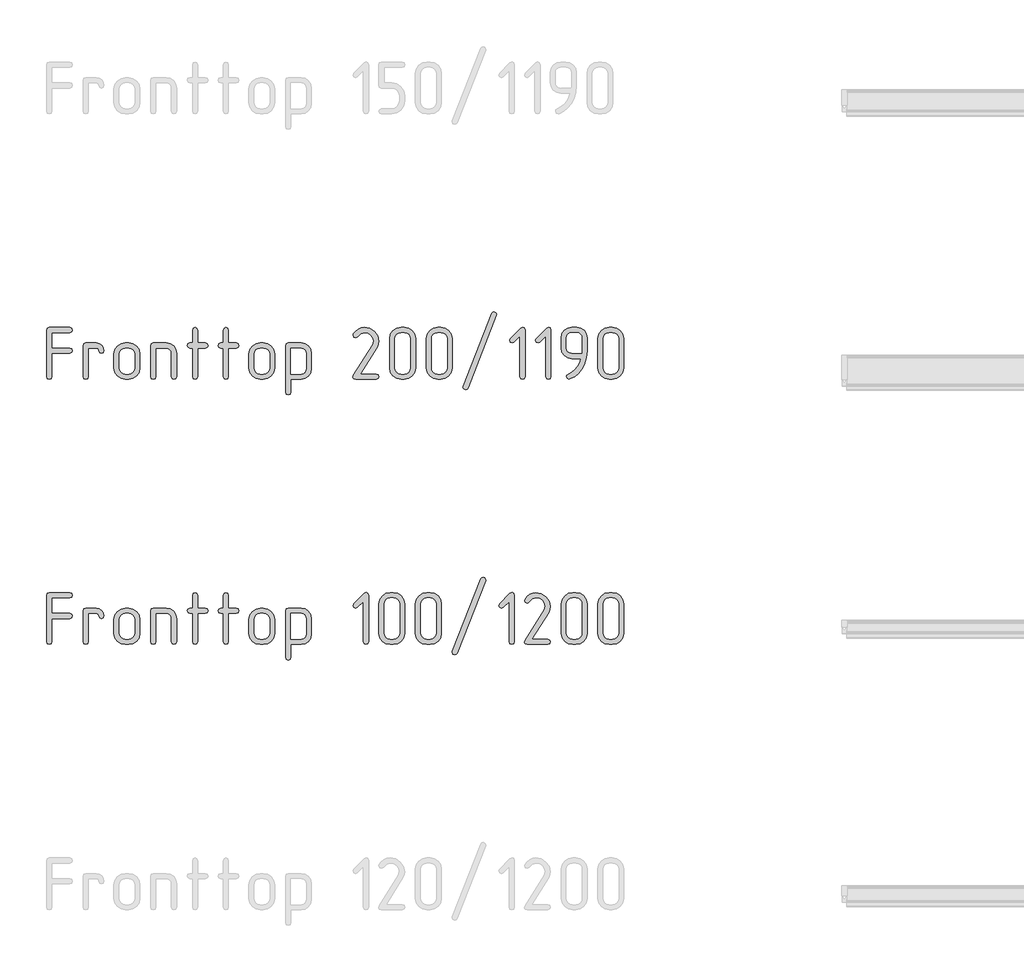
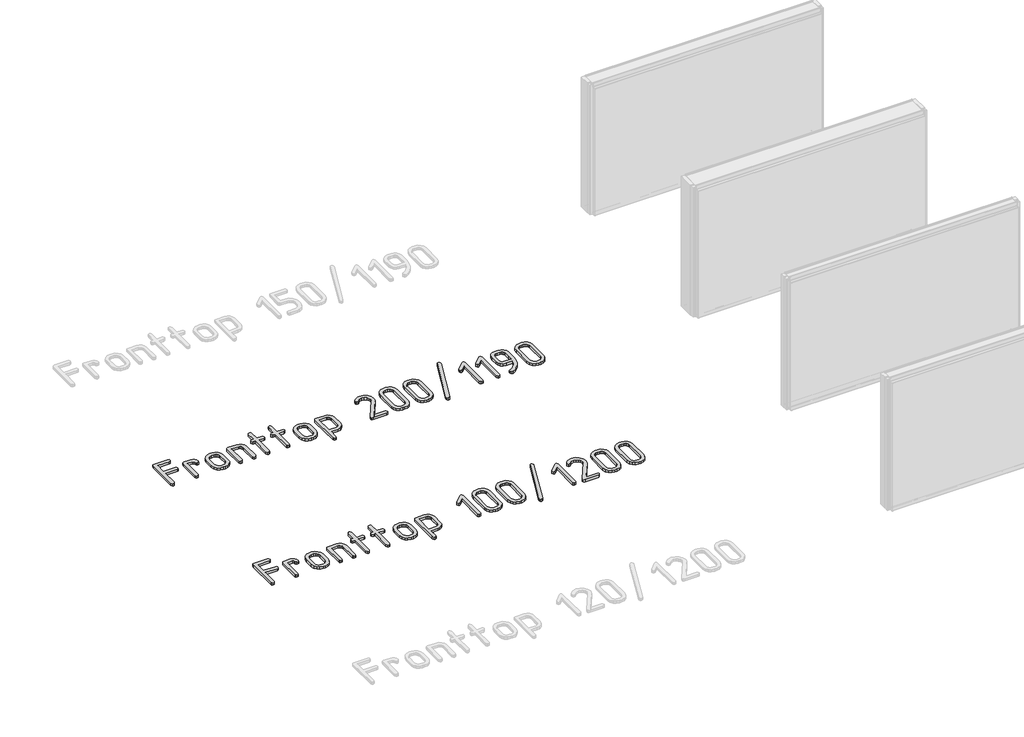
# One storey, part 14 of 37: 2 proxies.
"""IFC4 building model written with IfcOpenShell, lengths in millimetres."""

from ifc_helpers import new_model, si_unit, origin, origin_with_axes, place, context, project, spatial, polyline, outline, extrude, element, save

model = new_model("IFC4")

# Units and contexts
model_context = context("Model", 3, world=origin())
ifc_project = project(units=[si_unit("LENGTHUNIT", "METRE", prefix="MILLI")], contexts=[model_context])

# Site, building, storey
site = spatial("IfcSite", under=ifc_project)
building = spatial("IfcBuilding", under=site)
storey = spatial("IfcBuildingStorey", under=building, Name="Этаж 01", Elevation=0.0)

# Proxies
placement = place(None, origin())
element("IfcBuildingElementProxy", 1, Name="300 мм ГОСТ 2.304", ObjectType="300 мм ГОСТ 2.304", at=placement, inside=storey, context=model_context, shape_type="SweptSolid", body=[
    extrude(outline(polyline([(56161.9989869, -29551.9738322), (56264.4173344, -29551.9738322), (56275.3434297, -29556.0573223), (56278.9854614, -29566.5419592), (56275.1227005, -29577.0633842), (56264.4173344, -29581.5515446), (56161.9989869, -29581.5515446), (56161.9989869, -29713.5476044), (56157.9154968, -29724.4736997), (56147.4308599, -29728.1157314), (56136.9094349, -29724.2529705), (56132.4212745, -29713.5476044), (56132.4212745, -29449.9969431), (56136.1736709, -29438.739754), (56147.4308599, -29434.9873577), (56264.4173344, -29434.9873577), (56275.3434297, -29439.291577), (56278.9854614, -29449.9969431), (56275.1227005, -29460.0769098), (56264.4173344, -29464.5650701), (56161.9989869, -29464.5650701), (56161.9989869, -29551.9738322)])), origin_with_axes(), (0.0, 0.0, 1.0), 20.0),
    extrude(outline(polyline([(56457.0403471, -29566.9834176), (56452.9568569, -29577.9095128), (56442.4722201, -29581.5515446), (56431.950795, -29577.6887836), (56427.4626347, -29566.9834176), (56423.3791445, -29556.7195099), (56412.8945077, -29552.4152905), (56369.1901266, -29552.4152905), (56369.1901266, -29713.5476044), (56365.1066365, -29724.4736997), (56354.6219996, -29728.1157314), (56344.1005746, -29724.2529705), (56339.6124142, -29713.5476044), (56339.6124142, -29537.8471635), (56343.3648106, -29526.9210683), (56354.6219996, -29523.2790365), (56412.8945077, -29523.2790365), (56430.0378086, -29526.7003391), (56444.2012654, -29536.1181182), (56453.6190445, -29550.0608458), (56457.0403471, -29566.9834176)])), origin_with_axes(), (0.0, 0.0, 1.0), 20.0),
    extrude(outline(polyline([(56660.405514, -29663.8099587), (56655.6966245, -29688.7891462), (56641.5699559, -29709.7216317), (56620.9685641, -29723.5172065), (56596.0997413, -29728.1157314), (56578.5149819, -29728.1157314), (56553.5909767, -29723.5172065), (56532.6768853, -29709.7216317), (56518.5502167, -29688.7891462), (56513.8413271, -29663.8099587), (56513.8413271, -29587.5848093), (56518.5502167, -29562.9367156), (56532.6768853, -29542.1145947), (56553.9956469, -29527.9879261), (56578.5149819, -29523.2790365), (56596.0997413, -29523.2790365), (56620.7386379, -29527.9971231), (56641.5331677, -29542.1513829), (56655.6874274, -29562.9459127), (56660.405514, -29587.5848093), (56660.405514, -29663.8099587)]), holes=[polyline([(56631.26926, -29663.8099587), (56631.26926, -29587.5848093), (56628.694086, -29574.0835401), (56620.9685641, -29562.7159864), (56609.6010105, -29554.9904645), (56596.0997413, -29552.4152905), (56578.5149819, -29552.4152905), (56565.0229097, -29554.9904645), (56553.6829472, -29562.7159864), (56545.9850165, -29574.0835401), (56543.4190395, -29587.5848093), (56543.4190395, -29663.8099587), (56545.9850165, -29677.3112279), (56553.6829472, -29688.6787816), (56565.0229097, -29696.4043035), (56578.5149819, -29698.9794774), (56596.0997413, -29698.9794774), (56609.6010105, -29696.4043035), (56620.9685641, -29688.6787816), (56628.694086, -29677.3112279), (56631.26926, -29663.8099587)])]), origin_with_axes(), (0.0, 0.0, 1.0), 20.0),
    extrude(outline(polyline([(56867.5966537, -29713.5476044), (56863.5131635, -29724.4736997), (56853.0285267, -29728.1157314), (56842.7278308, -29724.2529705), (56838.4603997, -29713.5476044), (56838.4603997, -29581.5515446), (56836.3174871, -29570.4139172), (56829.8887492, -29560.986941), (56820.3514085, -29554.5582032), (56808.8826873, -29552.4152905), (56750.6101792, -29552.4152905), (56750.6101792, -29713.5476044), (56746.5266891, -29724.4736997), (56736.0420522, -29728.1157314), (56725.5206272, -29724.2529705), (56721.0324668, -29713.5476044), (56721.0324668, -29537.8471635), (56724.7848632, -29526.9210683), (56736.0420522, -29523.2790365), (56808.8826873, -29523.2790365), (56831.7097651, -29527.4544972), (56850.4533527, -29539.9808791), (56863.3108285, -29558.945196), (56867.5966537, -29581.5515446), (56867.5966537, -29713.5476044)])), origin_with_axes(), (0.0, 0.0, 1.0), 20.0),
    extrude(outline(polyline([(56986.9375729, -29523.2790365), (57031.0834124, -29523.2790365), (57042.0095076, -29527.3625267), (57045.6515394, -29537.8471635), (57041.7887784, -29547.9271302), (57031.0834124, -29552.4152905), (56986.9375729, -29552.4152905), (56986.9375729, -29713.5476044), (56982.8540828, -29724.4736997), (56972.3694459, -29728.1157314), (56962.0687501, -29724.2529705), (56957.8013189, -29713.5476044), (56957.8013189, -29552.4152905), (56943.2331919, -29552.4152905), (56932.3070966, -29548.1478594), (56928.2236065, -29537.8471635), (56932.0863675, -29527.5832559), (56943.2331919, -29523.2790365), (56957.8013189, -29523.2790365), (56957.8013189, -29449.9969431), (56962.0687501, -29439.0708478), (56972.3694459, -29434.9873577), (56982.6333536, -29438.8501186), (56986.9375729, -29449.9969431), (56986.9375729, -29523.2790365)])), origin_with_axes(), (0.0, 0.0, 1.0), 20.0),
    extrude(outline(polyline([(57161.1664858, -29523.2790365), (57205.3123253, -29523.2790365), (57216.2384205, -29527.3625267), (57219.8804523, -29537.8471635), (57216.0176913, -29547.9271302), (57205.3123253, -29552.4152905), (57161.1664858, -29552.4152905), (57161.1664858, -29713.5476044), (57157.0829957, -29724.4736997), (57146.5983588, -29728.1157314), (57136.297663, -29724.2529705), (57132.0302318, -29713.5476044), (57132.0302318, -29552.4152905), (57117.4621048, -29552.4152905), (57106.5360096, -29548.1478594), (57102.4525194, -29537.8471635), (57106.3152804, -29527.5832559), (57117.4621048, -29523.2790365), (57132.0302318, -29523.2790365), (57132.0302318, -29449.9969431), (57136.297663, -29439.0708478), (57146.5983588, -29434.9873577), (57156.8622665, -29438.8501186), (57161.1664858, -29449.9969431), (57161.1664858, -29523.2790365)])), origin_with_axes(), (0.0, 0.0, 1.0), 20.0),
    extrude(outline(polyline([(57423.2456192, -29663.8099587), (57418.5367297, -29688.7891462), (57404.4100611, -29709.7216317), (57383.8086693, -29723.5172065), (57358.9398465, -29728.1157314), (57341.3550871, -29728.1157314), (57316.4310819, -29723.5172065), (57295.5169905, -29709.7216317), (57281.3903219, -29688.7891462), (57276.6814323, -29663.8099587), (57276.6814323, -29587.5848093), (57281.3903219, -29562.9367156), (57295.5169905, -29542.1145947), (57316.8357521, -29527.9879261), (57341.3550871, -29523.2790365), (57358.9398465, -29523.2790365), (57383.5787431, -29527.9971231), (57404.3732729, -29542.1513829), (57418.5275326, -29562.9459127), (57423.2456192, -29587.5848093), (57423.2456192, -29663.8099587)]), holes=[polyline([(57394.1093652, -29663.8099587), (57394.1093652, -29587.5848093), (57391.5341912, -29574.0835401), (57383.8086693, -29562.7159864), (57372.4411157, -29554.9904645), (57358.9398465, -29552.4152905), (57341.3550871, -29552.4152905), (57327.8630149, -29554.9904645), (57316.5230524, -29562.7159864), (57308.8251217, -29574.0835401), (57306.2591447, -29587.5848093), (57306.2591447, -29663.8099587), (57308.8251217, -29677.3112279), (57316.5230524, -29688.6787816), (57327.8630149, -29696.4043035), (57341.3550871, -29698.9794774), (57358.9398465, -29698.9794774), (57372.4411157, -29696.4043035), (57383.8086693, -29688.6787816), (57391.5341912, -29677.3112279), (57394.1093652, -29663.8099587)])]), origin_with_axes(), (0.0, 0.0, 1.0), 20.0),
    extrude(outline(polyline([(57513.4502844, -29728.1157314), (57513.4502844, -29801.3978249), (57509.3667943, -29812.3239201), (57498.8821574, -29815.9659519), (57488.3607324, -29812.1031909), (57483.872572, -29801.3978249), (57483.872572, -29537.8471635), (57487.6249684, -29526.9210683), (57498.8821574, -29523.2790365), (57571.7227925, -29523.2790365), (57594.5498703, -29527.4544972), (57613.2934579, -29539.9808791), (57626.1509337, -29558.945196), (57630.4367589, -29581.5515446), (57630.4367589, -29669.401765), (57626.1509337, -29692.3392074), (57613.2934579, -29711.4138889), (57594.5498703, -29723.9402708), (57571.7227925, -29728.1157314), (57513.4502844, -29728.1157314)]), holes=[polyline([(57513.4502844, -29698.9794774), (57571.7227925, -29698.9794774), (57583.1915137, -29696.8365648), (57592.7288544, -29690.4078269), (57599.1575923, -29680.8704862), (57601.3005049, -29669.401765), (57601.3005049, -29581.5515446), (57599.1575923, -29570.4139172), (57592.7288544, -29560.986941), (57583.1915137, -29554.5582032), (57571.7227925, -29552.4152905), (57513.4502844, -29552.4152905), (57513.4502844, -29698.9794774)])]), origin_with_axes(), (0.0, 0.0, 1.0), 20.0),
    extrude(outline(polyline([(58001.1146572, -29548.1478594), (57906.4218317, -29698.9794774), (57997.2886845, -29698.9794774), (58008.2147797, -29703.0629676), (58011.8568115, -29713.5476044), (58007.9940505, -29723.6275711), (57997.2886845, -29728.1157314), (57880.30221, -29728.1157314), (57868.3828334, -29725.2278578), (57864.4097078, -29716.5642368), (57867.8677986, -29705.3806241), (57975.8779524, -29533.138274), (57981.3961823, -29511.2860835), (57977.7541505, -29493.1862893), (57966.8280553, -29478.3238567), (57950.3285478, -29468.0047668), (57930.8491962, -29464.5650701), (57908.9970056, -29470.5615466), (57892.2951631, -29486.858719), (57887.3839384, -29491.9906728), (57880.30221, -29493.7013241), (57870.0015142, -29489.6546222), (57865.2926246, -29479.5746555), (57867.8677986, -29471.4076752), (57879.6584165, -29456.6923954), (57894.4288786, -29445.0673244), (57911.1307212, -29437.5073494), (57928.7154806, -29434.9873577), (57960.0958148, -29440.7814991), (57986.5465302, -29458.1639234), (58004.5359598, -29483.0327463), (58010.5324363, -29512.1690003), (58008.1779915, -29530.5814941), (58001.1146572, -29548.1478594)])), origin_with_axes(), (0.0, 0.0, 1.0), 20.0),
    extrude(outline(polyline([(58219.0479512, -29663.8099587), (58214.3390616, -29688.7891462), (58200.212393, -29709.7216317), (58179.6110013, -29723.5172065), (58154.7421784, -29728.1157314), (58137.1574191, -29728.1157314), (58112.2334139, -29723.5172065), (58091.3193225, -29709.7216317), (58077.1926538, -29688.7891462), (58072.4837643, -29663.8099587), (58072.4837643, -29499.7345888), (58077.1926538, -29475.0864952), (58091.3193225, -29454.2643742), (58112.4173549, -29439.8066118), (58137.1574191, -29434.9873577), (58154.7421784, -29434.9873577), (58179.381075, -29439.7054443), (58200.1756048, -29453.859704), (58214.3298646, -29474.7645984), (58219.0479512, -29499.7345888), (58219.0479512, -29663.8099587)]), holes=[polyline([(58189.9116972, -29663.8099587), (58189.9116972, -29499.7345888), (58187.3365232, -29486.2333196), (58179.6110013, -29474.865766), (58168.2434476, -29467.1402441), (58154.7421784, -29464.5650701), (58137.1574191, -29464.5650701), (58123.6653469, -29467.1402441), (58112.3253844, -29474.865766), (58104.6274536, -29486.2333196), (58102.0614767, -29499.7345888), (58102.0614767, -29663.8099587), (58104.6274536, -29677.3112279), (58112.3253844, -29688.6787816), (58123.6653469, -29696.4043035), (58137.1574191, -29698.9794774), (58154.7421784, -29698.9794774), (58168.2434476, -29696.4043035), (58179.6110013, -29688.6787816), (58187.3365232, -29677.3112279), (58189.9116972, -29663.8099587)])]), origin_with_axes(), (0.0, 0.0, 1.0), 20.0),
    extrude(outline(polyline([(58426.2390909, -29663.8099587), (58421.5302013, -29688.7891462), (58407.4035327, -29709.7216317), (58386.802141, -29723.5172065), (58361.9333181, -29728.1157314), (58344.3485587, -29728.1157314), (58319.4245536, -29723.5172065), (58298.5104621, -29709.7216317), (58284.3837935, -29688.7891462), (58279.674904, -29663.8099587), (58279.674904, -29499.7345888), (58284.3837935, -29475.0864952), (58298.5104621, -29454.2643742), (58319.6084946, -29439.8066118), (58344.3485587, -29434.9873577), (58361.9333181, -29434.9873577), (58386.5722147, -29439.7054443), (58407.3667445, -29453.859704), (58421.5210043, -29474.7645984), (58426.2390909, -29499.7345888), (58426.2390909, -29663.8099587)]), holes=[polyline([(58397.1028368, -29663.8099587), (58397.1028368, -29499.7345888), (58394.5276629, -29486.2333196), (58386.802141, -29474.865766), (58375.4345873, -29467.1402441), (58361.9333181, -29464.5650701), (58344.3485587, -29464.5650701), (58330.8564866, -29467.1402441), (58319.5165241, -29474.865766), (58311.8185933, -29486.2333196), (58309.2526164, -29499.7345888), (58309.2526164, -29663.8099587), (58311.8185933, -29677.3112279), (58319.5165241, -29688.6787816), (58330.8564866, -29696.4043035), (58344.3485587, -29698.9794774), (58361.9333181, -29698.9794774), (58375.4345873, -29696.4043035), (58386.802141, -29688.6787816), (58394.5276629, -29677.3112279), (58397.1028368, -29663.8099587)])]), origin_with_axes(), (0.0, 0.0, 1.0), 20.0),
    extrude(outline(polyline([(58676.6931532, -29367.2970706), (58515.5608393, -29777.4119188), (58510.0058212, -29784.2545239), (58502.3170875, -29786.8296979), (58491.5749332, -29782.7462077), (58486.8660437, -29772.2615709), (58487.7489605, -29766.6697645), (58648.8812743, -29356.6284927), (58654.4362925, -29349.7123112), (58662.1250262, -29347.1371372), (58672.8671804, -29351.4413566), (58677.57607, -29361.7052642), (58676.6931532, -29367.2970706)])), origin_with_axes(), (0.0, 0.0, 1.0), 20.0),
    extrude(outline(polyline([(58838.4140783, -29713.5476044), (58834.3305881, -29724.4736997), (58823.8459512, -29728.1157314), (58813.7659846, -29724.2529705), (58809.2778242, -29713.5476044), (58809.2778242, -29485.1664618), (58775.4326807, -29518.570147), (58765.5734432, -29523.2790365), (58755.0520182, -29518.7908762), (58750.5638578, -29508.2694511), (58755.2727473, -29498.0423317), (58813.5452554, -29439.6962472), (58826.4211252, -29433.2951005), (58834.9927757, -29437.5993199), (58838.4140783, -29449.9969431), (58838.4140783, -29713.5476044)])), origin_with_axes(), (0.0, 0.0, 1.0), 20.0),
    extrude(outline(polyline([(58984.3896539, -29713.5476044), (58980.3061638, -29724.4736997), (58969.8215269, -29728.1157314), (58959.7415603, -29724.2529705), (58955.2533999, -29713.5476044), (58955.2533999, -29485.1664618), (58921.4082564, -29518.570147), (58911.5490189, -29523.2790365), (58901.0275938, -29518.7908762), (58896.5394335, -29508.2694511), (58901.248323, -29498.0423317), (58959.5208311, -29439.6962472), (58972.3967009, -29433.2951005), (58980.9683514, -29437.5993199), (58984.3896539, -29449.9969431), (58984.3896539, -29713.5476044)])), origin_with_axes(), (0.0, 0.0, 1.0), 20.0),
    extrude(outline(polyline([(59154.3511357, -29611.129257), (59101.2289756, -29611.129257), (59078.622627, -29606.8434317), (59059.6583102, -29593.985956), (59046.8008344, -29575.0216391), (59042.5150092, -29552.4152905), (59042.5150092, -29493.7013241), (59046.8008344, -29471.0949755), (59059.6583102, -29452.1306587), (59078.622627, -29439.2731829), (59101.2289756, -29434.9873577), (59130.3652296, -29434.9873577), (59153.1923074, -29439.2731829), (59171.9358951, -29452.1306587), (59184.7933708, -29471.0949755), (59189.0791961, -29493.7013241), (59189.0791961, -29566.5419592), (59185.2164351, -29607.818319), (59173.6281523, -29645.8573173), (59159.6578335, -29671.7378157), (59140.8498665, -29694.4913171), (59118.087168, -29713.1797224), (59092.2526549, -29726.8649327), (59086.2193902, -29728.1157314), (59076.1762117, -29723.4068419), (59072.0927216, -29712.6646876), (59074.2264372, -29705.1966831), (59081.0690423, -29699.8623942), (59101.9647396, -29688.8995108), (59120.0645338, -29674.1106546), (59134.9453605, -29655.8085253), (59146.1841554, -29634.3058227), (59150.525163, -29622.938269), (59154.3511357, -29611.129257)]), holes=[polyline([(59159.0600253, -29581.1468744), (59159.2807545, -29576.2172556), (59159.7222128, -29564.8864902), (59159.942942, -29539.9808791), (59159.942942, -29493.7013241), (59157.8000294, -29482.2877852), (59151.3712916, -29472.9159914), (59141.8339508, -29466.6528004), (59130.3652296, -29464.5650701), (59101.2289756, -29464.5650701), (59089.8154367, -29466.6528004), (59080.4436429, -29472.9159914), (59074.1804519, -29482.2877852), (59072.0927216, -29493.7013241), (59072.0927216, -29552.4152905), (59074.1804519, -29563.8288294), (59080.4436429, -29573.2006233), (59089.8154367, -29579.4638142), (59101.2289756, -29581.5515446), (59159.0600253, -29581.1468744)])]), origin_with_axes(), (0.0, 0.0, 1.0), 20.0),
    extrude(outline(polyline([(59396.2703357, -29663.8099587), (59391.5614462, -29688.7891462), (59377.4347776, -29709.7216317), (59356.8333859, -29723.5172065), (59331.964563, -29728.1157314), (59314.3798036, -29728.1157314), (59289.4557984, -29723.5172065), (59268.541707, -29709.7216317), (59254.4150384, -29688.7891462), (59249.7061489, -29663.8099587), (59249.7061489, -29499.7345888), (59254.4150384, -29475.0864952), (59268.541707, -29454.2643742), (59289.6397394, -29439.8066118), (59314.3798036, -29434.9873577), (59331.964563, -29434.9873577), (59356.6034596, -29439.7054443), (59377.3979894, -29453.859704), (59391.5522492, -29474.7645984), (59396.2703357, -29499.7345888), (59396.2703357, -29663.8099587)]), holes=[polyline([(59367.1340817, -29663.8099587), (59367.1340817, -29499.7345888), (59364.5589078, -29486.2333196), (59356.8333859, -29474.865766), (59345.4658322, -29467.1402441), (59331.964563, -29464.5650701), (59314.3798036, -29464.5650701), (59300.8877314, -29467.1402441), (59289.5477689, -29474.865766), (59281.8498382, -29486.2333196), (59279.2838613, -29499.7345888), (59279.2838613, -29663.8099587), (59281.8498382, -29677.3112279), (59289.5477689, -29688.6787816), (59300.8877314, -29696.4043035), (59314.3798036, -29698.9794774), (59331.964563, -29698.9794774), (59345.4658322, -29696.4043035), (59356.8333859, -29688.6787816), (59364.5589078, -29677.3112279), (59367.1340817, -29663.8099587)])]), origin_with_axes(), (0.0, 0.0, 1.0), 20.0),
])
element("IfcBuildingElementProxy", 2, Name="300 мм ГОСТ 2.304", ObjectType="300 мм ГОСТ 2.304", at=placement, inside=storey, context=model_context, shape_type="SweptSolid", body=[
    extrude(outline(polyline([(56161.9989869, -31051.9738322), (56264.4173344, -31051.9738322), (56275.3434297, -31056.0573223), (56278.9854614, -31066.5419592), (56275.1227005, -31077.0633842), (56264.4173344, -31081.5515446), (56161.9989869, -31081.5515446), (56161.9989869, -31213.5476044), (56157.9154968, -31224.4736997), (56147.4308599, -31228.1157314), (56136.9094349, -31224.2529705), (56132.4212745, -31213.5476044), (56132.4212745, -30949.9969431), (56136.1736709, -30938.739754), (56147.4308599, -30934.9873577), (56264.4173344, -30934.9873577), (56275.3434297, -30939.291577), (56278.9854614, -30949.9969431), (56275.1227005, -30960.0769098), (56264.4173344, -30964.5650701), (56161.9989869, -30964.5650701), (56161.9989869, -31051.9738322)])), origin_with_axes(), (0.0, 0.0, 1.0), 20.0),
    extrude(outline(polyline([(56457.0403471, -31066.9834176), (56452.9568569, -31077.9095128), (56442.4722201, -31081.5515446), (56431.950795, -31077.6887836), (56427.4626347, -31066.9834176), (56423.3791445, -31056.7195099), (56412.8945077, -31052.4152905), (56369.1901266, -31052.4152905), (56369.1901266, -31213.5476044), (56365.1066365, -31224.4736997), (56354.6219996, -31228.1157314), (56344.1005746, -31224.2529705), (56339.6124142, -31213.5476044), (56339.6124142, -31037.8471635), (56343.3648106, -31026.9210683), (56354.6219996, -31023.2790365), (56412.8945077, -31023.2790365), (56430.0378086, -31026.7003391), (56444.2012654, -31036.1181182), (56453.6190445, -31050.0608458), (56457.0403471, -31066.9834176)])), origin_with_axes(), (0.0, 0.0, 1.0), 20.0),
    extrude(outline(polyline([(56660.405514, -31163.8099587), (56655.6966245, -31188.7891462), (56641.5699559, -31209.7216317), (56620.9685641, -31223.5172065), (56596.0997413, -31228.1157314), (56578.5149819, -31228.1157314), (56553.5909767, -31223.5172065), (56532.6768853, -31209.7216317), (56518.5502167, -31188.7891462), (56513.8413271, -31163.8099587), (56513.8413271, -31087.5848093), (56518.5502167, -31062.9367156), (56532.6768853, -31042.1145947), (56553.9956469, -31027.9879261), (56578.5149819, -31023.2790365), (56596.0997413, -31023.2790365), (56620.7386379, -31027.9971231), (56641.5331677, -31042.1513829), (56655.6874274, -31062.9459127), (56660.405514, -31087.5848093), (56660.405514, -31163.8099587)]), holes=[polyline([(56631.26926, -31163.8099587), (56631.26926, -31087.5848093), (56628.694086, -31074.0835401), (56620.9685641, -31062.7159864), (56609.6010105, -31054.9904645), (56596.0997413, -31052.4152905), (56578.5149819, -31052.4152905), (56565.0229097, -31054.9904645), (56553.6829472, -31062.7159864), (56545.9850165, -31074.0835401), (56543.4190395, -31087.5848093), (56543.4190395, -31163.8099587), (56545.9850165, -31177.3112279), (56553.6829472, -31188.6787816), (56565.0229097, -31196.4043035), (56578.5149819, -31198.9794774), (56596.0997413, -31198.9794774), (56609.6010105, -31196.4043035), (56620.9685641, -31188.6787816), (56628.694086, -31177.3112279), (56631.26926, -31163.8099587)])]), origin_with_axes(), (0.0, 0.0, 1.0), 20.0),
    extrude(outline(polyline([(56867.5966537, -31213.5476044), (56863.5131635, -31224.4736997), (56853.0285267, -31228.1157314), (56842.7278308, -31224.2529705), (56838.4603997, -31213.5476044), (56838.4603997, -31081.5515446), (56836.3174871, -31070.4139172), (56829.8887492, -31060.986941), (56820.3514085, -31054.5582032), (56808.8826873, -31052.4152905), (56750.6101792, -31052.4152905), (56750.6101792, -31213.5476044), (56746.5266891, -31224.4736997), (56736.0420522, -31228.1157314), (56725.5206272, -31224.2529705), (56721.0324668, -31213.5476044), (56721.0324668, -31037.8471635), (56724.7848632, -31026.9210683), (56736.0420522, -31023.2790365), (56808.8826873, -31023.2790365), (56831.7097651, -31027.4544972), (56850.4533527, -31039.9808791), (56863.3108285, -31058.945196), (56867.5966537, -31081.5515446), (56867.5966537, -31213.5476044)])), origin_with_axes(), (0.0, 0.0, 1.0), 20.0),
    extrude(outline(polyline([(56986.9375729, -31023.2790365), (57031.0834124, -31023.2790365), (57042.0095076, -31027.3625267), (57045.6515394, -31037.8471635), (57041.7887784, -31047.9271302), (57031.0834124, -31052.4152905), (56986.9375729, -31052.4152905), (56986.9375729, -31213.5476044), (56982.8540828, -31224.4736997), (56972.3694459, -31228.1157314), (56962.0687501, -31224.2529705), (56957.8013189, -31213.5476044), (56957.8013189, -31052.4152905), (56943.2331919, -31052.4152905), (56932.3070966, -31048.1478594), (56928.2236065, -31037.8471635), (56932.0863675, -31027.5832559), (56943.2331919, -31023.2790365), (56957.8013189, -31023.2790365), (56957.8013189, -30949.9969431), (56962.0687501, -30939.0708478), (56972.3694459, -30934.9873577), (56982.6333536, -30938.8501186), (56986.9375729, -30949.9969431), (56986.9375729, -31023.2790365)])), origin_with_axes(), (0.0, 0.0, 1.0), 20.0),
    extrude(outline(polyline([(57161.1664858, -31023.2790365), (57205.3123253, -31023.2790365), (57216.2384205, -31027.3625267), (57219.8804523, -31037.8471635), (57216.0176913, -31047.9271302), (57205.3123253, -31052.4152905), (57161.1664858, -31052.4152905), (57161.1664858, -31213.5476044), (57157.0829957, -31224.4736997), (57146.5983588, -31228.1157314), (57136.297663, -31224.2529705), (57132.0302318, -31213.5476044), (57132.0302318, -31052.4152905), (57117.4621048, -31052.4152905), (57106.5360096, -31048.1478594), (57102.4525194, -31037.8471635), (57106.3152804, -31027.5832559), (57117.4621048, -31023.2790365), (57132.0302318, -31023.2790365), (57132.0302318, -30949.9969431), (57136.297663, -30939.0708478), (57146.5983588, -30934.9873577), (57156.8622665, -30938.8501186), (57161.1664858, -30949.9969431), (57161.1664858, -31023.2790365)])), origin_with_axes(), (0.0, 0.0, 1.0), 20.0),
    extrude(outline(polyline([(57423.2456192, -31163.8099587), (57418.5367297, -31188.7891462), (57404.4100611, -31209.7216317), (57383.8086693, -31223.5172065), (57358.9398465, -31228.1157314), (57341.3550871, -31228.1157314), (57316.4310819, -31223.5172065), (57295.5169905, -31209.7216317), (57281.3903219, -31188.7891462), (57276.6814323, -31163.8099587), (57276.6814323, -31087.5848093), (57281.3903219, -31062.9367156), (57295.5169905, -31042.1145947), (57316.8357521, -31027.9879261), (57341.3550871, -31023.2790365), (57358.9398465, -31023.2790365), (57383.5787431, -31027.9971231), (57404.3732729, -31042.1513829), (57418.5275326, -31062.9459127), (57423.2456192, -31087.5848093), (57423.2456192, -31163.8099587)]), holes=[polyline([(57394.1093652, -31163.8099587), (57394.1093652, -31087.5848093), (57391.5341912, -31074.0835401), (57383.8086693, -31062.7159864), (57372.4411157, -31054.9904645), (57358.9398465, -31052.4152905), (57341.3550871, -31052.4152905), (57327.8630149, -31054.9904645), (57316.5230524, -31062.7159864), (57308.8251217, -31074.0835401), (57306.2591447, -31087.5848093), (57306.2591447, -31163.8099587), (57308.8251217, -31177.3112279), (57316.5230524, -31188.6787816), (57327.8630149, -31196.4043035), (57341.3550871, -31198.9794774), (57358.9398465, -31198.9794774), (57372.4411157, -31196.4043035), (57383.8086693, -31188.6787816), (57391.5341912, -31177.3112279), (57394.1093652, -31163.8099587)])]), origin_with_axes(), (0.0, 0.0, 1.0), 20.0),
    extrude(outline(polyline([(57513.4502844, -31228.1157314), (57513.4502844, -31301.3978249), (57509.3667943, -31312.3239201), (57498.8821574, -31315.9659519), (57488.3607324, -31312.1031909), (57483.872572, -31301.3978249), (57483.872572, -31037.8471635), (57487.6249684, -31026.9210683), (57498.8821574, -31023.2790365), (57571.7227925, -31023.2790365), (57594.5498703, -31027.4544972), (57613.2934579, -31039.9808791), (57626.1509337, -31058.945196), (57630.4367589, -31081.5515446), (57630.4367589, -31169.401765), (57626.1509337, -31192.3392074), (57613.2934579, -31211.4138889), (57594.5498703, -31223.9402708), (57571.7227925, -31228.1157314), (57513.4502844, -31228.1157314)]), holes=[polyline([(57513.4502844, -31198.9794774), (57571.7227925, -31198.9794774), (57583.1915137, -31196.8365648), (57592.7288544, -31190.4078269), (57599.1575923, -31180.8704862), (57601.3005049, -31169.401765), (57601.3005049, -31081.5515446), (57599.1575923, -31070.4139172), (57592.7288544, -31060.986941), (57583.1915137, -31054.5582032), (57571.7227925, -31052.4152905), (57513.4502844, -31052.4152905), (57513.4502844, -31198.9794774)])]), origin_with_axes(), (0.0, 0.0, 1.0), 20.0),
    extrude(outline(polyline([(57953.1428451, -31213.5476044), (57949.0593549, -31224.4736997), (57938.5747181, -31228.1157314), (57928.4947514, -31224.2529705), (57924.006591, -31213.5476044), (57924.006591, -30985.1664618), (57890.1614475, -31018.570147), (57880.30221, -31023.2790365), (57869.780785, -31018.7908762), (57865.2926246, -31008.2694511), (57870.0015142, -30998.0423317), (57928.2740222, -30939.6962472), (57941.149892, -30933.2951005), (57949.7215425, -30937.5993199), (57953.1428451, -30949.9969431), (57953.1428451, -31213.5476044)])), origin_with_axes(), (0.0, 0.0, 1.0), 20.0),
    extrude(outline(polyline([(58157.8323872, -31163.8099587), (58153.1234976, -31188.7891462), (58138.996829, -31209.7216317), (58118.3954373, -31223.5172065), (58093.5266144, -31228.1157314), (58075.9418551, -31228.1157314), (58051.0178499, -31223.5172065), (58030.1037585, -31209.7216317), (58015.9770898, -31188.7891462), (58011.2682003, -31163.8099587), (58011.2682003, -30999.7345888), (58015.9770898, -30975.0864952), (58030.1037585, -30954.2643742), (58051.2017909, -30939.8066118), (58075.9418551, -30934.9873577), (58093.5266144, -30934.9873577), (58118.1655111, -30939.7054443), (58138.9600408, -30953.859704), (58153.1143006, -30974.7645984), (58157.8323872, -30999.7345888), (58157.8323872, -31163.8099587)]), holes=[polyline([(58128.6961332, -31163.8099587), (58128.6961332, -30999.7345888), (58126.1209592, -30986.2333196), (58118.3954373, -30974.865766), (58107.0278836, -30967.1402441), (58093.5266144, -30964.5650701), (58075.9418551, -30964.5650701), (58062.4497829, -30967.1402441), (58051.1098204, -30974.865766), (58043.4118896, -30986.2333196), (58040.8459127, -30999.7345888), (58040.8459127, -31163.8099587), (58043.4118896, -31177.3112279), (58051.1098204, -31188.6787816), (58062.4497829, -31196.4043035), (58075.9418551, -31198.9794774), (58093.5266144, -31198.9794774), (58107.0278836, -31196.4043035), (58118.3954373, -31188.6787816), (58126.1209592, -31177.3112279), (58128.6961332, -31163.8099587)])]), origin_with_axes(), (0.0, 0.0, 1.0), 20.0),
    extrude(outline(polyline([(58365.0235269, -31163.8099587), (58360.3146373, -31188.7891462), (58346.1879687, -31209.7216317), (58325.586577, -31223.5172065), (58300.7177541, -31228.1157314), (58283.1329947, -31228.1157314), (58258.2089896, -31223.5172065), (58237.2948981, -31209.7216317), (58223.1682295, -31188.7891462), (58218.45934, -31163.8099587), (58218.45934, -30999.7345888), (58223.1682295, -30975.0864952), (58237.2948981, -30954.2643742), (58258.3929306, -30939.8066118), (58283.1329947, -30934.9873577), (58300.7177541, -30934.9873577), (58325.3566507, -30939.7054443), (58346.1511805, -30953.859704), (58360.3054403, -30974.7645984), (58365.0235269, -30999.7345888), (58365.0235269, -31163.8099587)]), holes=[polyline([(58335.8872728, -31163.8099587), (58335.8872728, -30999.7345888), (58333.3120989, -30986.2333196), (58325.586577, -30974.865766), (58314.2190233, -30967.1402441), (58300.7177541, -30964.5650701), (58283.1329947, -30964.5650701), (58269.6409226, -30967.1402441), (58258.3009601, -30974.865766), (58250.6030293, -30986.2333196), (58248.0370524, -30999.7345888), (58248.0370524, -31163.8099587), (58250.6030293, -31177.3112279), (58258.3009601, -31188.6787816), (58269.6409226, -31196.4043035), (58283.1329947, -31198.9794774), (58300.7177541, -31198.9794774), (58314.2190233, -31196.4043035), (58325.586577, -31188.6787816), (58333.3120989, -31177.3112279), (58335.8872728, -31163.8099587)])]), origin_with_axes(), (0.0, 0.0, 1.0), 20.0),
    extrude(outline(polyline([(58615.4775892, -30867.2970706), (58454.3452753, -31277.4119188), (58448.7902572, -31284.2545239), (58441.1015235, -31286.8296979), (58430.3593692, -31282.7462077), (58425.6504797, -31272.2615709), (58426.5333965, -31266.6697645), (58587.6657103, -30856.6284927), (58593.2207285, -30849.7123112), (58600.9094622, -30847.1371372), (58611.6516164, -30851.4413566), (58616.360506, -30861.7052642), (58615.4775892, -30867.2970706)])), origin_with_axes(), (0.0, 0.0, 1.0), 20.0),
    extrude(outline(polyline([(58777.1985143, -31213.5476044), (58773.1150241, -31224.4736997), (58762.6303873, -31228.1157314), (58752.5504206, -31224.2529705), (58748.0622602, -31213.5476044), (58748.0622602, -30985.1664618), (58714.2171167, -31018.570147), (58704.3578792, -31023.2790365), (58693.8364542, -31018.7908762), (58689.3482938, -31008.2694511), (58694.0571833, -30998.0423317), (58752.3296914, -30939.6962472), (58765.2055612, -30933.2951005), (58773.7772117, -30937.5993199), (58777.1985143, -30949.9969431), (58777.1985143, -31213.5476044)])), origin_with_axes(), (0.0, 0.0, 1.0), 20.0),
    extrude(outline(polyline([(58971.1459021, -31048.1478594), (58876.4530766, -31198.9794774), (58967.3199294, -31198.9794774), (58978.2460246, -31203.0629676), (58981.8880564, -31213.5476044), (58978.0252954, -31223.6275711), (58967.3199294, -31228.1157314), (58850.3334549, -31228.1157314), (58838.4140783, -31225.2278578), (58834.4409527, -31216.5642368), (58837.8990435, -31205.3806241), (58945.9091972, -31033.138274), (58951.4274272, -31011.2860835), (58947.7853954, -30993.1862893), (58936.8593002, -30978.3238567), (58920.3597927, -30968.0047668), (58900.880441, -30964.5650701), (58879.0282505, -30970.5615466), (58862.3264079, -30986.858719), (58857.4151833, -30991.9906728), (58850.3334549, -30993.7013241), (58840.032759, -30989.6546222), (58835.3238695, -30979.5746555), (58837.8990435, -30971.4076752), (58849.6896614, -30956.6923954), (58864.4601235, -30945.0673244), (58881.1619661, -30937.5073494), (58898.7467255, -30934.9873577), (58930.1270597, -30940.7814991), (58956.5777751, -30958.1639234), (58974.5672047, -30983.0327463), (58980.5636812, -31012.1690003), (58978.2092364, -31030.5814941), (58971.1459021, -31048.1478594)])), origin_with_axes(), (0.0, 0.0, 1.0), 20.0),
    extrude(outline(polyline([(59189.0791961, -31163.8099587), (59184.3703065, -31188.7891462), (59170.2436379, -31209.7216317), (59149.6422462, -31223.5172065), (59124.7734233, -31228.1157314), (59107.1886639, -31228.1157314), (59082.2646588, -31223.5172065), (59061.3505673, -31209.7216317), (59047.2238987, -31188.7891462), (59042.5150092, -31163.8099587), (59042.5150092, -30999.7345888), (59047.2238987, -30975.0864952), (59061.3505673, -30954.2643742), (59082.4485998, -30939.8066118), (59107.1886639, -30934.9873577), (59124.7734233, -30934.9873577), (59149.4123199, -30939.7054443), (59170.2068497, -30953.859704), (59184.3611095, -30974.7645984), (59189.0791961, -30999.7345888), (59189.0791961, -31163.8099587)]), holes=[polyline([(59159.942942, -31163.8099587), (59159.942942, -30999.7345888), (59157.3677681, -30986.2333196), (59149.6422462, -30974.865766), (59138.2746925, -30967.1402441), (59124.7734233, -30964.5650701), (59107.1886639, -30964.5650701), (59093.6965918, -30967.1402441), (59082.3566293, -30974.865766), (59074.6586985, -30986.2333196), (59072.0927216, -30999.7345888), (59072.0927216, -31163.8099587), (59074.6586985, -31177.3112279), (59082.3566293, -31188.6787816), (59093.6965918, -31196.4043035), (59107.1886639, -31198.9794774), (59124.7734233, -31198.9794774), (59138.2746925, -31196.4043035), (59149.6422462, -31188.6787816), (59157.3677681, -31177.3112279), (59159.942942, -31163.8099587)])]), origin_with_axes(), (0.0, 0.0, 1.0), 20.0),
    extrude(outline(polyline([(59396.2703357, -31163.8099587), (59391.5614462, -31188.7891462), (59377.4347776, -31209.7216317), (59356.8333859, -31223.5172065), (59331.964563, -31228.1157314), (59314.3798036, -31228.1157314), (59289.4557984, -31223.5172065), (59268.541707, -31209.7216317), (59254.4150384, -31188.7891462), (59249.7061489, -31163.8099587), (59249.7061489, -30999.7345888), (59254.4150384, -30975.0864952), (59268.541707, -30954.2643742), (59289.6397394, -30939.8066118), (59314.3798036, -30934.9873577), (59331.964563, -30934.9873577), (59356.6034596, -30939.7054443), (59377.3979894, -30953.859704), (59391.5522492, -30974.7645984), (59396.2703357, -30999.7345888), (59396.2703357, -31163.8099587)]), holes=[polyline([(59367.1340817, -31163.8099587), (59367.1340817, -30999.7345888), (59364.5589078, -30986.2333196), (59356.8333859, -30974.865766), (59345.4658322, -30967.1402441), (59331.964563, -30964.5650701), (59314.3798036, -30964.5650701), (59300.8877314, -30967.1402441), (59289.5477689, -30974.865766), (59281.8498382, -30986.2333196), (59279.2838613, -30999.7345888), (59279.2838613, -31163.8099587), (59281.8498382, -31177.3112279), (59289.5477689, -31188.6787816), (59300.8877314, -31196.4043035), (59314.3798036, -31198.9794774), (59331.964563, -31198.9794774), (59345.4658322, -31196.4043035), (59356.8333859, -31188.6787816), (59364.5589078, -31177.3112279), (59367.1340817, -31163.8099587)])]), origin_with_axes(), (0.0, 0.0, 1.0), 20.0),
])

save(model, "model.ifc")
